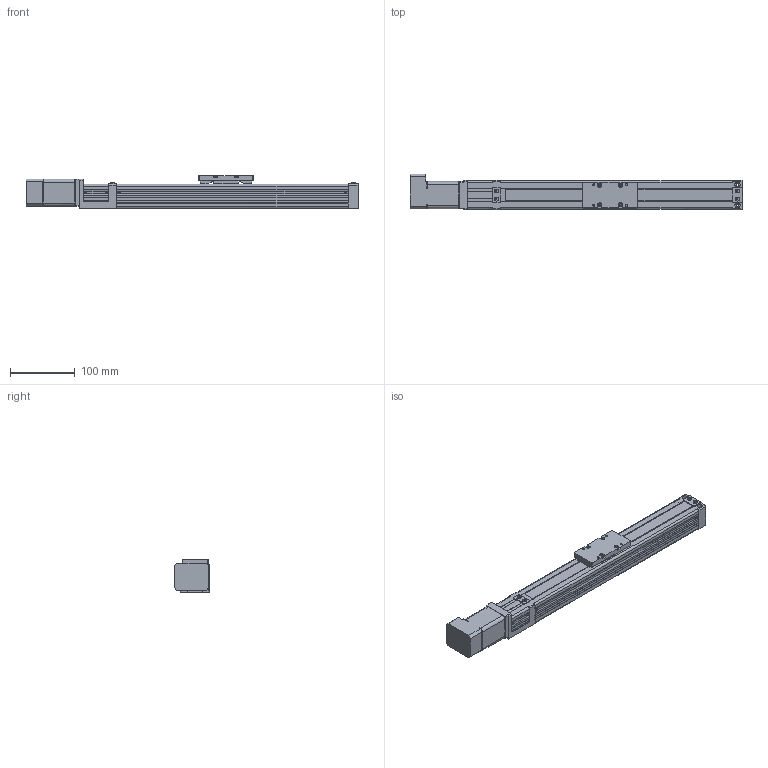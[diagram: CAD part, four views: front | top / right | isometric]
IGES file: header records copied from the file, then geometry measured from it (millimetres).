
Global section: file name: No Iges File Name specified; native system: AutoDesk Inventor R10; preprocessor: AutoDesk Inventor Iges Exporter R10; author: No Author specified; organization: No Organization specified; date: 20110617.145521; units: millimetre
Bounding box: 512.5 x 54.5 x 50 mm (x, y, z)
Surface area: 196078.7 mm2 (no closed solid volume)
Topology: 0 solids, 0 shells, 874 faces, 5732 edges, 5704 vertices
Faces by surface type: bspline 874
